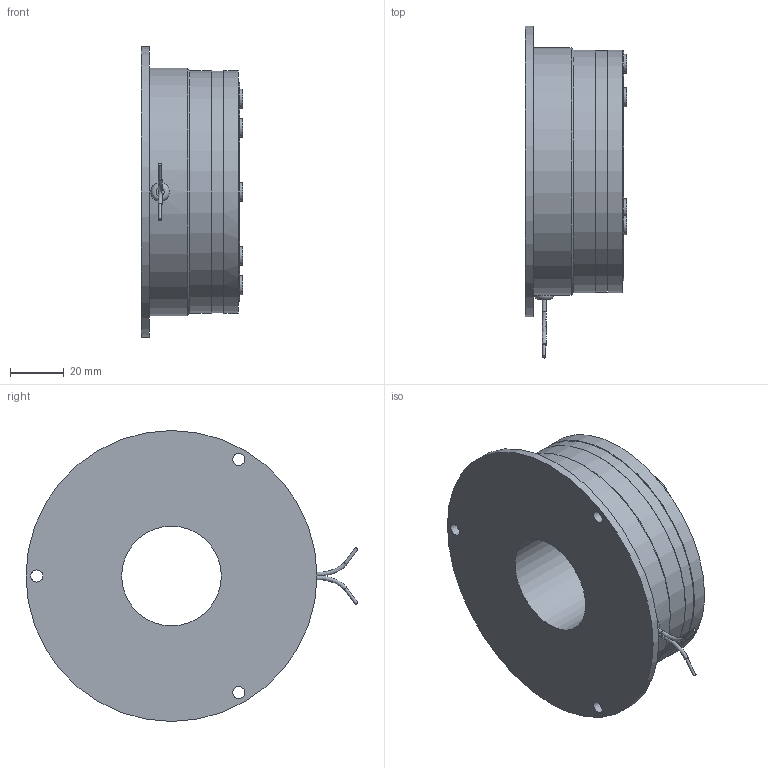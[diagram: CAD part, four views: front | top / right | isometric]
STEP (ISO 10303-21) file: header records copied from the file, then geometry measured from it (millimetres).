
FILE_DESCRIPTION(/* description */ (''),/* implementation_level */ '2;1');
FILE_NAME(/* name */ 'X:\INVENTOR\DISEGNI\08_Freni_Friz_Elettmag_Monodisco\08_28 EMFL_DF\EMFL_DF STEP\08_28_090_11 EMFL090_DF-B@STEP.stp',/* time_stamp */ '2018-04-23T15:55:34+02:00',/* author */ ('stefano'),/* organization */ (''),/* preprocessor_version */ 'ST-DEVELOPER v17',/* originating_system */ 'Autodesk Inventor 2018',/* authorisation */ '');
FILE_SCHEMA (('AUTOMOTIVE_DESIGN { 1 0 10303 214 3 1 1 }'));
Length unit declared in the file: millimetre
Products named in the file (1): 08_28_090_11 EMFL090_DF-B_Substitute_1
Bounding box: 37.7 x 123.22 x 108 mm (x, y, z)
Volume: 191902.9 mm3; surface area: 52725.6 mm2
Topology: 3 solids, 3 shells, 203 faces, 596 edges, 409 vertices
Faces by surface type: cylinder 129, plane 51, cone 20, bspline 2, torus 1
Full cylindrical faces by diameter (mm): 1.154 x2, 1.5 x7, 4.5 x3, 5.1 x9, 6 x1, 7 x6, 37 x2, 42 x1, 54 x1, 80 x1, 89.8 x1, 90 x2, 92 x1, 108 x1
Entity records: 7698 total; most frequent: CARTESIAN_POINT 1432, DIRECTION 1428, ORIENTED_EDGE 1194, AXIS2_PLACEMENT_3D 637, EDGE_CURVE 597, CIRCLE 435, VERTEX_POINT 410, EDGE_LOOP 268
